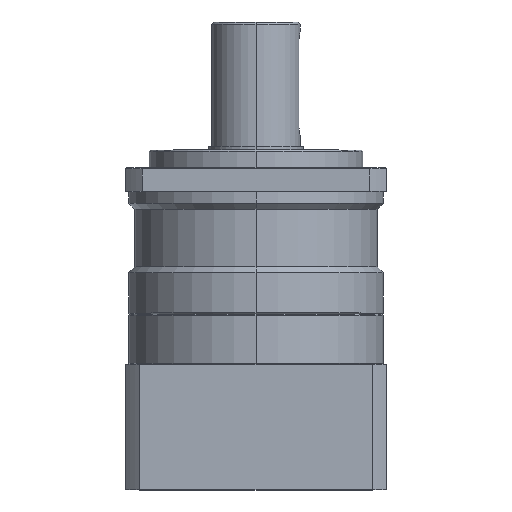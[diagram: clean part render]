
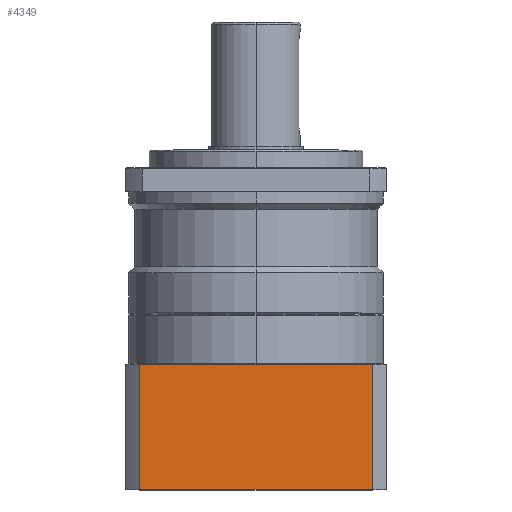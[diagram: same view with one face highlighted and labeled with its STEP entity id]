
A CAD part, top view. The second image highlights one B-rep face of the part: STEP entity #4349.
In plain terms, the highlighted planar face has unit normal (0, 0, 1).
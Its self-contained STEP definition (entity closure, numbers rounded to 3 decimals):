
#257 = EDGE_CURVE ( 'NONE', #2346, #2327, #3085, .T. ) ;
#258 = EDGE_CURVE ( 'NONE', #4282, #2346, #3092, .T. ) ;
#259 = EDGE_CURVE ( 'NONE', #4282, #2256, #3095, .T. ) ;
#668 = AXIS2_PLACEMENT_3D ( 'NONE', #4583, #4588, #4589 ) ;
#956 = EDGE_CURVE ( 'NONE', #2327, #2256, #3568, .T. ) ;
#1392 = CARTESIAN_POINT ( 'NONE',  ( -98.266, -190.5, 110. ) ) ;
#1403 = DIRECTION ( 'NONE',  ( 0., 1., 0. ) ) ;
#1423 = CARTESIAN_POINT ( 'NONE',  ( -98.266, -42.5, 110. ) ) ;
#1468 = CARTESIAN_POINT ( 'NONE',  ( -98.266, -148., 110. ) ) ;
#1474 = CARTESIAN_POINT ( 'NONE',  ( 98.266, -148., 110. ) ) ;
#1612 = CARTESIAN_POINT ( 'NONE',  ( 98.266, -42.5, 110. ) ) ;
#2256 = VERTEX_POINT ( 'NONE', #1423 ) ;
#2288 = ORIENTED_EDGE ( 'NONE', *, *, #956, .F. ) ;
#2327 = VERTEX_POINT ( 'NONE', #1468 ) ;
#2338 = ORIENTED_EDGE ( 'NONE', *, *, #257, .F. ) ;
#2346 = VERTEX_POINT ( 'NONE', #1474 ) ;
#2380 = DIRECTION ( 'NONE',  ( -1., 0., 0. ) ) ;
#2413 = DIRECTION ( 'NONE',  ( 0., -1., 0. ) ) ;
#2415 = DIRECTION ( 'NONE',  ( -1., 0., 0. ) ) ;
#2429 = CARTESIAN_POINT ( 'NONE',  ( 110., -148., 110. ) ) ;
#2432 = CARTESIAN_POINT ( 'NONE',  ( 110., -42.5, 110. ) ) ;
#2436 = CARTESIAN_POINT ( 'NONE',  ( 98.266, -190.5, 110. ) ) ;
#2886 = ORIENTED_EDGE ( 'NONE', *, *, #259, .T. ) ;
#2887 = ORIENTED_EDGE ( 'NONE', *, *, #258, .F. ) ;
#3085 = LINE ( 'NONE', #2429, #3090 ) ;
#3090 = VECTOR ( 'NONE', #2380, 1000. ) ;
#3092 = LINE ( 'NONE', #2436, #3098 ) ;
#3095 = LINE ( 'NONE', #2432, #3100 ) ;
#3098 = VECTOR ( 'NONE', #2413, 1000. ) ;
#3100 = VECTOR ( 'NONE', #2415, 1000. ) ;
#3568 = LINE ( 'NONE', #1392, #3580 ) ;
#3580 = VECTOR ( 'NONE', #1403, 1000. ) ;
#4204 = EDGE_LOOP ( 'NONE', ( #2288, #2338, #2887, #2886 ) ) ;
#4282 = VERTEX_POINT ( 'NONE', #1612 ) ;
#4349 = ADVANCED_FACE ( 'NONE', ( #4912 ), #4585, .F. ) ;
#4583 = CARTESIAN_POINT ( 'NONE',  ( 110., -148., 110. ) ) ;
#4585 = PLANE ( 'NONE',  #668 ) ;
#4588 = DIRECTION ( 'NONE',  ( 0., 0., -1. ) ) ;
#4589 = DIRECTION ( 'NONE',  ( -1., 0., 0. ) ) ;
#4912 = FACE_OUTER_BOUND ( 'NONE', #4204, .T. ) ;
